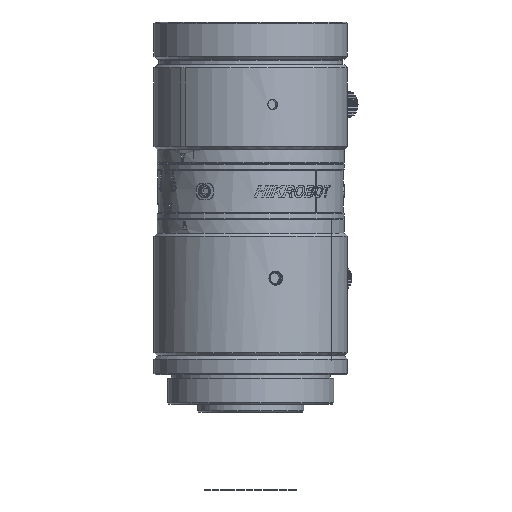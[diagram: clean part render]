
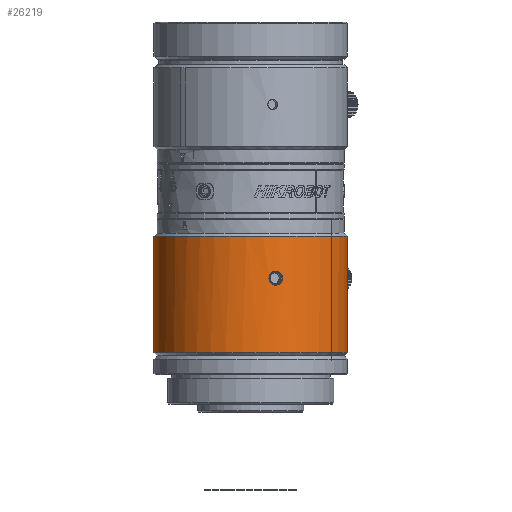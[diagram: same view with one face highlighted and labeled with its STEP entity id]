
A CAD part, left-side view. The second image highlights one B-rep face of the part: STEP entity #26219.
In plain terms, the highlighted cylindrical face has radius 14.75 mm (diameter 29.5 mm), a partial arc.
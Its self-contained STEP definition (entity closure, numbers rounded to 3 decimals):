
#3773=CARTESIAN_POINT('',(0.,0.,38.65));
#3774=DIRECTION('',(0.,0.,-1.));
#3775=DIRECTION('',(0.,-1.,0.));
#3776=AXIS2_PLACEMENT_3D('',#3773,#3774,#3775);
#3778=CARTESIAN_POINT('',(0.,0.,38.65));
#3779=DIRECTION('',(0.,0.,-1.));
#3780=DIRECTION('',(-0.258,-0.966,0.));
#3781=AXIS2_PLACEMENT_3D('',#3778,#3779,#3780);
#3797=DIRECTION('',(0.,0.,-1.));
#3798=VECTOR('',#3797,17.74);
#3799=CARTESIAN_POINT('',(0.,14.75,38.65));
#3800=LINE('',#3799,#3798);
#3861=CARTESIAN_POINT('',(0.,0.,20.91));
#3862=DIRECTION('',(0.,0.,1.));
#3863=DIRECTION('',(-0.966,0.258,0.));
#3864=AXIS2_PLACEMENT_3D('',#3861,#3862,#3863);
#3866=CARTESIAN_POINT('',(0.,0.,20.91));
#3867=DIRECTION('',(0.,0.,1.));
#3868=DIRECTION('',(-0.258,-0.966,0.));
#3869=AXIS2_PLACEMENT_3D('',#3866,#3867,#3868);
#3904=CARTESIAN_POINT('',(0.,0.,20.91));
#3905=DIRECTION('',(0.,0.,1.));
#3906=DIRECTION('',(0.,1.,0.));
#3907=AXIS2_PLACEMENT_3D('',#3904,#3905,#3906);
#3909=DIRECTION('',(0.,0.,-1.));
#3910=VECTOR('',#3909,17.74);
#3911=CARTESIAN_POINT('',(0.,-14.75,38.65));
#3912=LINE('',#3911,#3910);
#3913=CARTESIAN_POINT('',(-13.93,-4.849,
32.25));
#3914=CARTESIAN_POINT('',(-13.93,-4.849,
32.362));
#3915=CARTESIAN_POINT('',(-13.942,-4.816,
32.575));
#3916=CARTESIAN_POINT('',(-13.991,-4.672,
32.874));
#3917=CARTESIAN_POINT('',(-14.065,-4.446,
33.11));
#3918=CARTESIAN_POINT('',(-14.154,-4.155,
33.265));
#3919=CARTESIAN_POINT('',(-14.246,-3.829,
33.318));
#3920=CARTESIAN_POINT('',(-14.33,-3.501,
33.263));
#3921=CARTESIAN_POINT('',(-14.398,-3.206,
33.108));
#3922=CARTESIAN_POINT('',(-14.447,-2.976,
32.872));
#3923=CARTESIAN_POINT('',(-14.477,-2.827,
32.575));
#3924=CARTESIAN_POINT('',(-14.483,-2.793,
32.362));
#3925=CARTESIAN_POINT('',(-14.483,-2.793,
32.25));
#3927=CARTESIAN_POINT('',(-14.483,-2.793,
32.25));
#3928=CARTESIAN_POINT('',(-14.483,-2.793,
32.138));
#3929=CARTESIAN_POINT('',(-14.477,-2.827,
31.925));
#3930=CARTESIAN_POINT('',(-14.447,-2.976,
31.626));
#3931=CARTESIAN_POINT('',(-14.398,-3.209,
31.39));
#3932=CARTESIAN_POINT('',(-14.329,-3.506,
31.235));
#3933=CARTESIAN_POINT('',(-14.244,-3.834,
31.182));
#3934=CARTESIAN_POINT('',(-14.152,-4.16,
31.237));
#3935=CARTESIAN_POINT('',(-14.064,-4.449,
31.392));
#3936=CARTESIAN_POINT('',(-13.991,-4.673,
31.628));
#3937=CARTESIAN_POINT('',(-13.942,-4.816,
31.925));
#3938=CARTESIAN_POINT('',(-13.93,-4.849,
32.138));
#3939=CARTESIAN_POINT('',(-13.93,-4.849,
32.25));
#20977=CARTESIAN_POINT('',(0.,14.75,38.65));
#20978=CARTESIAN_POINT('',(0.,-14.75,38.65));
#20979=VERTEX_POINT('',#20977);
#20980=VERTEX_POINT('',#20978);
#20981=CARTESIAN_POINT('',(0.,-14.75,20.91));
#20983=VERTEX_POINT('',#20981);
#20985=CARTESIAN_POINT('',(0.,14.75,20.91));
#20986=VERTEX_POINT('',#20985);
#21003=VERTEX_POINT('',#3927);
#21004=VERTEX_POINT('',#3939);
#21005=CARTESIAN_POINT('',(-3.804,-14.251,
38.65));
#21006=VERTEX_POINT('',#21005);
#21007=CARTESIAN_POINT('',(-3.804,-14.251,
20.91));
#21008=VERTEX_POINT('',#21007);
#21009=CARTESIAN_POINT('',(-14.251,3.804,
20.91));
#21010=VERTEX_POINT('',#21009);
#26199=CARTESIAN_POINT('',(0.,0.,19.11));
#26200=DIRECTION('',(0.,0.,-1.));
#26201=DIRECTION('',(-0.258,-0.966,0.));
#26202=AXIS2_PLACEMENT_3D('',#26199,#26200,#26201);
#26203=CYLINDRICAL_SURFACE('',#26202,14.75);
#26204=ORIENTED_EDGE('',*,*,#26126,.F.);
#26205=ORIENTED_EDGE('',*,*,#26098,.F.);
#26206=ORIENTED_EDGE('',*,*,#26096,.F.);
#26207=ORIENTED_EDGE('',*,*,#26123,.T.);
#26208=ORIENTED_EDGE('',*,*,#26158,.F.);
#26209=ORIENTED_EDGE('',*,*,#26156,.F.);
#26210=ORIENTED_EDGE('',*,*,#26191,.F.);
#26211=EDGE_LOOP('',(#26204,#26205,#26206,#26207,#26208,#26209,#26210));
#26212=FACE_OUTER_BOUND('',#26211,.F.);
#26214=ORIENTED_EDGE('',*,*,#26213,.T.);
#26216=ORIENTED_EDGE('',*,*,#26215,.T.);
#26217=EDGE_LOOP('',(#26214,#26216));
#26218=FACE_BOUND('',#26217,.F.);
#26219=ADVANCED_FACE('',(#26212,#26218),#26203,.T.);
#3777=CIRCLE('',#3776,14.75);
#3782=CIRCLE('',#3781,14.75);
#3865=CIRCLE('',#3864,14.75);
#3870=CIRCLE('',#3869,14.75);
#3908=CIRCLE('',#3907,14.75);
#3926=B_SPLINE_CURVE_WITH_KNOTS('',3,(#3913,#3914,#3915,#3916,#3917,#3918,#3919,
#3920,#3921,#3922,#3923,#3924,#3925),.UNSPECIFIED.,.F.,.F.,(4,1,1,1,1,1,1,1,1,1,
4),(0.,0.1,0.2,0.3,0.4,0.5,0.6,0.7,0.8,0.9,1.),
.UNSPECIFIED.);
#3940=B_SPLINE_CURVE_WITH_KNOTS('',3,(#3927,#3928,#3929,#3930,#3931,#3932,#3933,
#3934,#3935,#3936,#3937,#3938,#3939),.UNSPECIFIED.,.F.,.F.,(4,1,1,1,1,1,1,1,1,1,
4),(0.,0.1,0.2,0.3,0.4,0.5,0.6,0.7,0.8,0.9,1.),
.UNSPECIFIED.);
#26096=EDGE_CURVE('',#20980,#21006,#3777,.T.);
#26098=EDGE_CURVE('',#21006,#20979,#3782,.T.);
#26123=EDGE_CURVE('',#20980,#20983,#3912,.T.);
#26126=EDGE_CURVE('',#20979,#20986,#3800,.T.);
#26156=EDGE_CURVE('',#21010,#21008,#3865,.T.);
#26158=EDGE_CURVE('',#21008,#20983,#3870,.T.);
#26191=EDGE_CURVE('',#20986,#21010,#3908,.T.);
#26213=EDGE_CURVE('',#21004,#21003,#3926,.T.);
#26215=EDGE_CURVE('',#21003,#21004,#3940,.T.);
